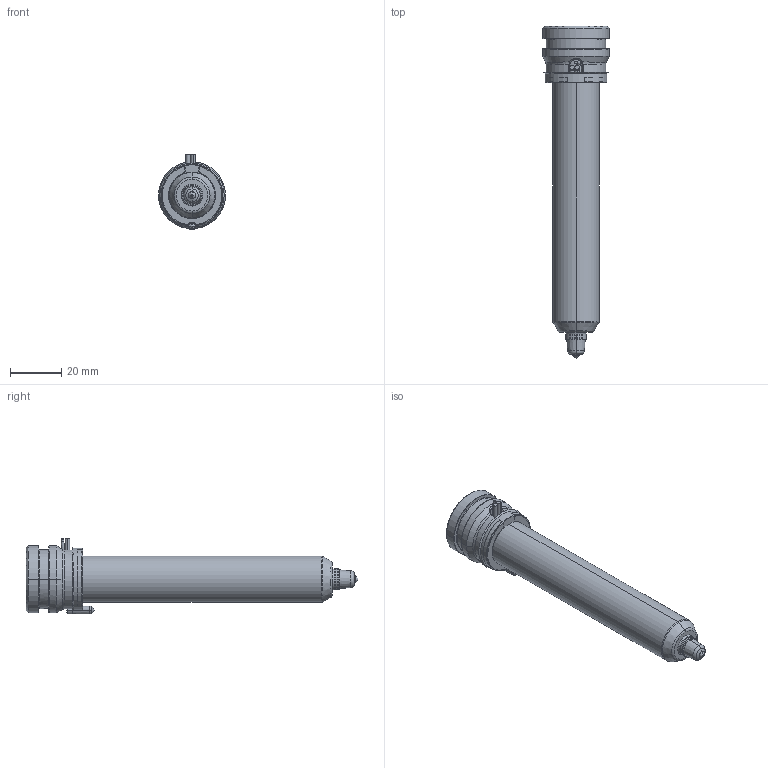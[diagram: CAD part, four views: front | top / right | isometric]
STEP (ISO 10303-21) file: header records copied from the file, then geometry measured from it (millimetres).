
FILE_DESCRIPTION((''),'2;1');
FILE_NAME('TH18111-A-1B50-PK-JG','2023-12-14T',('umhib'),('Thermoplay S.p.A.'),'PRO/ENGINEER BY PARAMETRIC TECHNOLOGY CORPORATION, 2017170','PRO/ENGINEER BY PARAMETRIC TECHNOLOGY CORPORATION, 2017170','');
FILE_SCHEMA(('CONFIG_CONTROL_DESIGN'));
Length unit declared in the file: millimetre
Products named in the file (1): TH18111-A-1B50-PK-JG
Bounding box: 26 x 129 x 29.5 mm (x, y, z)
Volume: 25965.1 mm3; surface area: 18999.7 mm2
Topology: 1 solids, 2 shells, 394 faces, 1026 edges, 637 vertices
Faces by surface type: cylinder 151, plane 85, cone 66, torus 54, bspline 24, sphere 12, extrusion 2
Entity records: 17998 total; most frequent: CARTESIAN_POINT 6175, ORIENTED_EDGE 2028, DIRECTION 2015, EDGE_CURVE 1016, AXIS2_PLACEMENT_3D 808, VERTEX_POINT 637, CIRCLE 439, EDGE_LOOP 414
